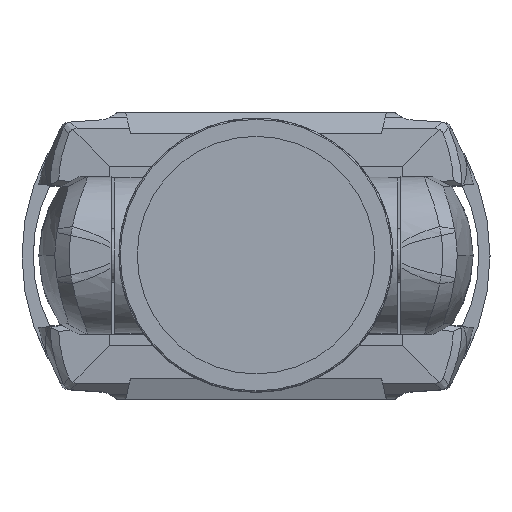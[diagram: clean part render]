
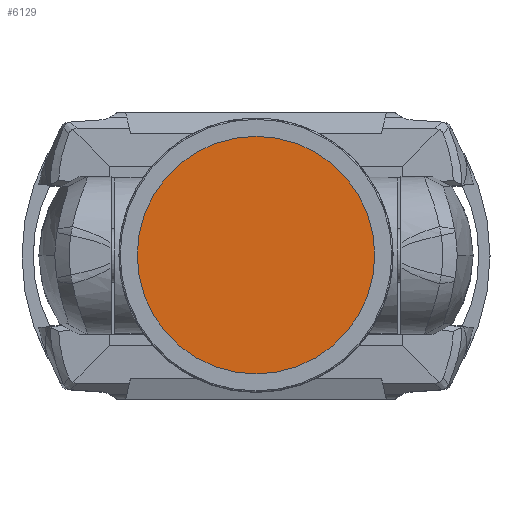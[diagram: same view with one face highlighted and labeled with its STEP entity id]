
A CAD part, top view. The second image highlights one B-rep face of the part: STEP entity #6129.
In plain terms, the highlighted planar face has unit normal (0, 0, 1).
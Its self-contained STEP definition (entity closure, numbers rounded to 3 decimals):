
#631=PLANE('',#6596);
#2637=ORIENTED_EDGE('',*,*,#3884,.F.);
#3884=EDGE_CURVE('',#4599,#4599,#4894,.T.);
#4599=VERTEX_POINT('',#12169);
#4894=CIRCLE('',#6597,97.5);
#5221=EDGE_LOOP('',(#2637));
#5627=FACE_BOUND('',#5221,.T.);
#6129=ADVANCED_FACE('',(#5627),#631,.F.);
#6596=AXIS2_PLACEMENT_3D('',#12167,#7623,#7624);
#6597=AXIS2_PLACEMENT_3D('',#12168,#7625,#7626);
#7623=DIRECTION('',(0.,0.,-1.));
#7624=DIRECTION('',(-1.,0.,0.));
#7625=DIRECTION('',(0.,0.,-1.));
#7626=DIRECTION('',(0.,-1.,0.));
#12167=CARTESIAN_POINT('',(0.,0.,110.7));
#12168=CARTESIAN_POINT('',(0.,0.,110.7));
#12169=CARTESIAN_POINT('',(0.,-97.5,110.7));
